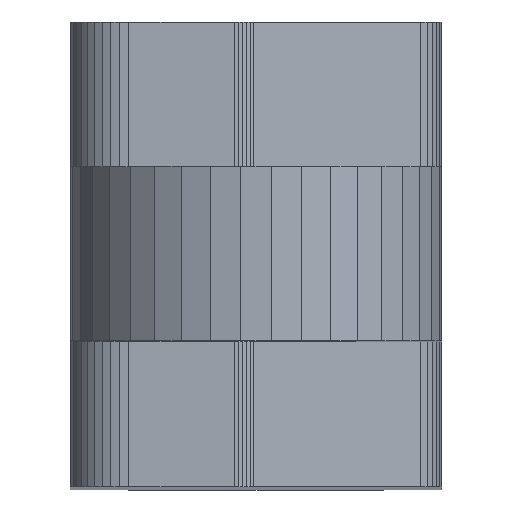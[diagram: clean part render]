
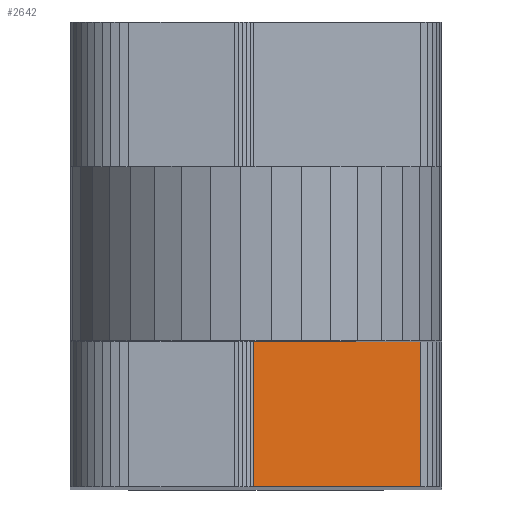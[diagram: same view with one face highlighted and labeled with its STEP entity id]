
A CAD part, top view. The second image highlights one B-rep face of the part: STEP entity #2642.
In plain terms, the highlighted planar face has unit normal (0.643, 0, 0.766).
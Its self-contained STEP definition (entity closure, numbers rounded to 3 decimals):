
#1864 = PLANE('',#1865);
#1865 = AXIS2_PLACEMENT_3D('',#1866,#1867,#1868);
#1866 = CARTESIAN_POINT('',(6.872,4.963,
    71.866));
#1867 = DIRECTION('',(0.,-1.,0.));
#1868 = DIRECTION('',(-1.,0.,0.));
#1918 = PLANE('',#1919);
#1919 = AXIS2_PLACEMENT_3D('',#1920,#1921,#1922);
#1920 = CARTESIAN_POINT('',(6.188,0.,33.084));
#1921 = DIRECTION('',(-0.,-1.,-0.));
#1922 = DIRECTION('',(0.,0.,-1.));
#2125 = PLANE('',#2126);
#2126 = AXIS2_PLACEMENT_3D('',#2127,#2128,#2129);
#2127 = CARTESIAN_POINT('',(12.09,2.481,
    62.085));
#2128 = DIRECTION('',(0.697,0.,0.717));
#2129 = DIRECTION('',(0.717,0.,-0.697));
#2163 = VERTEX_POINT('',#2164);
#2164 = CARTESIAN_POINT('',(11.986,4.963,
    62.186));
#2185 = EDGE_CURVE('',#2163,#2186,#2188,.T.);
#2186 = VERTEX_POINT('',#2187);
#2187 = CARTESIAN_POINT('',(11.986,0.,62.186));
#2188 = SURFACE_CURVE('',#2189,(#2193,#2200),.PCURVE_S1.);
#2189 = LINE('',#2190,#2191);
#2190 = CARTESIAN_POINT('',(11.986,4.963,
    62.186));
#2191 = VECTOR('',#2192,1.);
#2192 = DIRECTION('',(0.,-1.,0.));
#2193 = PCURVE('',#2125,#2194);
#2194 = DEFINITIONAL_REPRESENTATION('',(#2195),#2199);
#2195 = LINE('',#2196,#2197);
#2196 = CARTESIAN_POINT('',(-0.145,2.481));
#2197 = VECTOR('',#2198,1.);
#2198 = DIRECTION('',(0.,-1.));
#2199 = ( GEOMETRIC_REPRESENTATION_CONTEXT(2) 
PARAMETRIC_REPRESENTATION_CONTEXT() REPRESENTATION_CONTEXT('2D SPACE',''
  ) );
#2200 = PCURVE('',#2201,#2206);
#2201 = PLANE('',#2202);
#2202 = AXIS2_PLACEMENT_3D('',#2203,#2204,#2205);
#2203 = CARTESIAN_POINT('',(9.125,2.481,64.586
    ));
#2204 = DIRECTION('',(0.643,0.,0.766));
#2205 = DIRECTION('',(0.766,0.,-0.643));
#2206 = DEFINITIONAL_REPRESENTATION('',(#2207),#2211);
#2207 = LINE('',#2208,#2209);
#2208 = CARTESIAN_POINT('',(3.734,2.481));
#2209 = VECTOR('',#2210,1.);
#2210 = DIRECTION('',(0.,-1.));
#2211 = ( GEOMETRIC_REPRESENTATION_CONTEXT(2) 
PARAMETRIC_REPRESENTATION_CONTEXT() REPRESENTATION_CONTEXT('2D SPACE',''
  ) );
#2237 = EDGE_CURVE('',#2238,#2240,#2242,.T.);
#2238 = VERTEX_POINT('',#2239);
#2239 = CARTESIAN_POINT('',(6.265,4.963,
    66.986));
#2240 = VERTEX_POINT('',#2241);
#2241 = CARTESIAN_POINT('',(6.265,0.,66.986));
#2242 = SURFACE_CURVE('',#2243,(#2247,#2259),.PCURVE_S1.);
#2243 = LINE('',#2244,#2245);
#2244 = CARTESIAN_POINT('',(6.265,4.963,
    66.986));
#2245 = VECTOR('',#2246,1.);
#2246 = DIRECTION('',(0.,-1.,0.));
#2247 = PCURVE('',#2248,#2253);
#2248 = PLANE('',#2249);
#2249 = AXIS2_PLACEMENT_3D('',#2250,#2251,#2252);
#2250 = CARTESIAN_POINT('',(6.208,2.481,
    67.027));
#2251 = DIRECTION('',(0.588,0.,0.809)
  );
#2252 = DIRECTION('',(0.809,0.,-0.588));
#2253 = DEFINITIONAL_REPRESENTATION('',(#2254),#2258);
#2254 = LINE('',#2255,#2256);
#2255 = CARTESIAN_POINT('',(0.07,2.481));
#2256 = VECTOR('',#2257,1.);
#2257 = DIRECTION('',(0.,-1.));
#2258 = ( GEOMETRIC_REPRESENTATION_CONTEXT(2) 
PARAMETRIC_REPRESENTATION_CONTEXT() REPRESENTATION_CONTEXT('2D SPACE',''
  ) );
#2259 = PCURVE('',#2201,#2260);
#2260 = DEFINITIONAL_REPRESENTATION('',(#2261),#2265);
#2261 = LINE('',#2262,#2263);
#2262 = CARTESIAN_POINT('',(-3.734,2.481));
#2263 = VECTOR('',#2264,1.);
#2264 = DIRECTION('',(0.,-1.));
#2265 = ( GEOMETRIC_REPRESENTATION_CONTEXT(2) 
PARAMETRIC_REPRESENTATION_CONTEXT() REPRESENTATION_CONTEXT('2D SPACE',''
  ) );
#2642 = ADVANCED_FACE('',(#2643),#2201,.T.);
#2643 = FACE_BOUND('',#2644,.T.);
#2644 = EDGE_LOOP('',(#2645,#2666,#2667,#2688));
#2645 = ORIENTED_EDGE('',*,*,#2646,.T.);
#2646 = EDGE_CURVE('',#2163,#2238,#2647,.T.);
#2647 = SURFACE_CURVE('',#2648,(#2652,#2659),.PCURVE_S1.);
#2648 = LINE('',#2649,#2650);
#2649 = CARTESIAN_POINT('',(11.986,4.963,
    62.186));
#2650 = VECTOR('',#2651,1.);
#2651 = DIRECTION('',(-0.766,0.,0.643));
#2652 = PCURVE('',#2201,#2653);
#2653 = DEFINITIONAL_REPRESENTATION('',(#2654),#2658);
#2654 = LINE('',#2655,#2656);
#2655 = CARTESIAN_POINT('',(3.734,2.481));
#2656 = VECTOR('',#2657,1.);
#2657 = DIRECTION('',(-1.,0.));
#2658 = ( GEOMETRIC_REPRESENTATION_CONTEXT(2) 
PARAMETRIC_REPRESENTATION_CONTEXT() REPRESENTATION_CONTEXT('2D SPACE',''
  ) );
#2659 = PCURVE('',#1864,#2660);
#2660 = DEFINITIONAL_REPRESENTATION('',(#2661),#2665);
#2661 = LINE('',#2662,#2663);
#2662 = CARTESIAN_POINT('',(-5.114,9.681));
#2663 = VECTOR('',#2664,1.);
#2664 = DIRECTION('',(0.766,-0.643));
#2665 = ( GEOMETRIC_REPRESENTATION_CONTEXT(2) 
PARAMETRIC_REPRESENTATION_CONTEXT() REPRESENTATION_CONTEXT('2D SPACE',''
  ) );
#2666 = ORIENTED_EDGE('',*,*,#2237,.T.);
#2667 = ORIENTED_EDGE('',*,*,#2668,.T.);
#2668 = EDGE_CURVE('',#2240,#2186,#2669,.T.);
#2669 = SURFACE_CURVE('',#2670,(#2674,#2681),.PCURVE_S1.);
#2670 = LINE('',#2671,#2672);
#2671 = CARTESIAN_POINT('',(6.265,0.,66.986));
#2672 = VECTOR('',#2673,1.);
#2673 = DIRECTION('',(0.766,0.,-0.643));
#2674 = PCURVE('',#2201,#2675);
#2675 = DEFINITIONAL_REPRESENTATION('',(#2676),#2680);
#2676 = LINE('',#2677,#2678);
#2677 = CARTESIAN_POINT('',(-3.734,-2.481));
#2678 = VECTOR('',#2679,1.);
#2679 = DIRECTION('',(1.,0.));
#2680 = ( GEOMETRIC_REPRESENTATION_CONTEXT(2) 
PARAMETRIC_REPRESENTATION_CONTEXT() REPRESENTATION_CONTEXT('2D SPACE',''
  ) );
#2681 = PCURVE('',#1918,#2682);
#2682 = DEFINITIONAL_REPRESENTATION('',(#2683),#2687);
#2683 = LINE('',#2684,#2685);
#2684 = CARTESIAN_POINT('',(-33.902,0.077));
#2685 = VECTOR('',#2686,1.);
#2686 = DIRECTION('',(0.643,0.766));
#2687 = ( GEOMETRIC_REPRESENTATION_CONTEXT(2) 
PARAMETRIC_REPRESENTATION_CONTEXT() REPRESENTATION_CONTEXT('2D SPACE',''
  ) );
#2688 = ORIENTED_EDGE('',*,*,#2185,.F.);
